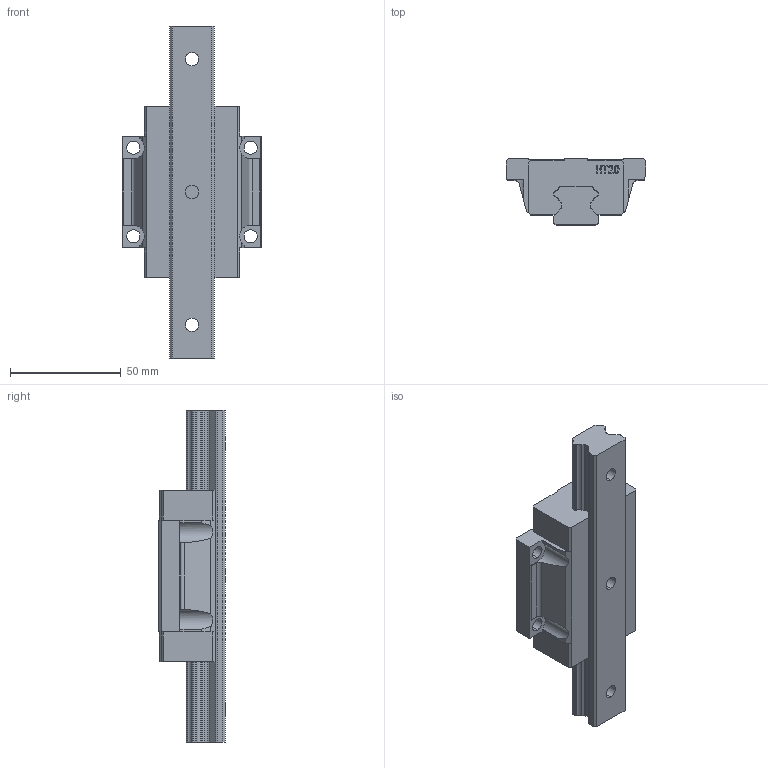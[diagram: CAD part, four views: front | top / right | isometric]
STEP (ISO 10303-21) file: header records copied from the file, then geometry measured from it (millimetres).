
FILE_DESCRIPTION (( 'STEP AP214' ), '1' );
FILE_NAME ('7.1002 Lineaarikelkka HTW20CC.STEP', '2026-03-11T10:54:28', ( '' ), ( '' ), 'SwSTEP 2.0', 'SolidWorks 2025', '' );
FILE_SCHEMA (( 'AUTOMOTIVE_DESIGN' ));
Length unit declared in the file: millimetre
Products named in the file (3): HTR20; 7.1002 Lineaarikelkka HTW20CC; HTW20
Assembly tree (2 placements, depth 2):
  7.1002 Lineaarikelkka HTW20CC
    HTW20
    HTR20
Bounding box: 63 x 30 x 150 mm (x, y, z)
Volume: 120444.9 mm3; surface area: 30477.9 mm2
Topology: 2 solids, 2 shells, 749 faces, 2117 edges, 1410 vertices
Faces by surface type: plane 653, cylinder 72, bspline 24
Entity records: 34308 total; most frequent: CARTESIAN_POINT 6565, ORIENTED_EDGE 4234, DIRECTION 3653, EDGE_CURVE 2117, LINE 1913, VECTOR 1913, VERTEX_POINT 1410, AXIS2_PLACEMENT_3D 870
